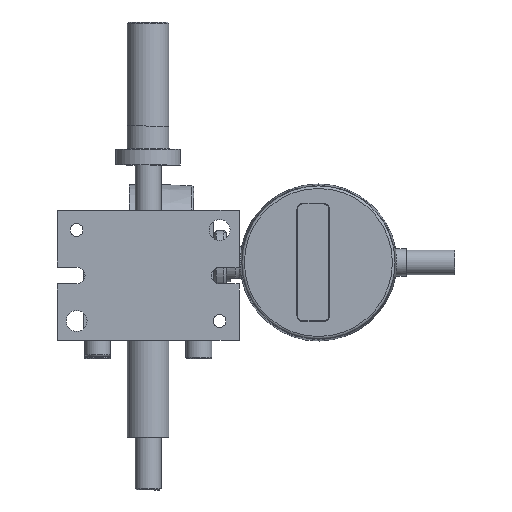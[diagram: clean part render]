
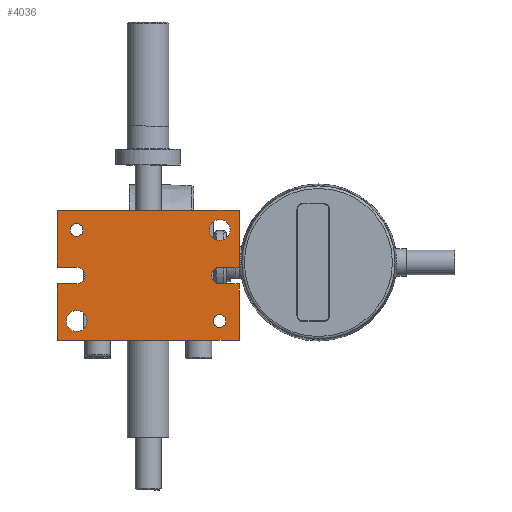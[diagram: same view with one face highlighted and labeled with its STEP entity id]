
A CAD part, left-side view. The second image highlights one B-rep face of the part: STEP entity #4036.
In plain terms, the highlighted planar face has unit normal (-1, 0, 0) as drawn and (0, 0, -1) by its records, which use the part's own axes.
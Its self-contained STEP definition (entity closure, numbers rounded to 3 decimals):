
#284=FACE_BOUND('',#701,.T.);
#285=FACE_BOUND('',#702,.T.);
#286=FACE_BOUND('',#703,.T.);
#287=FACE_BOUND('',#704,.T.);
#362=PLANE('',#4639);
#474=FACE_OUTER_BOUND('',#700,.T.);
#700=EDGE_LOOP('',(#2818,#2819,#2820,#2821,#2822,#2823,#2824,#2825,#2826,
#2827,#2828,#2829));
#701=EDGE_LOOP('',(#2830));
#702=EDGE_LOOP('',(#2831));
#703=EDGE_LOOP('',(#2832,#2833));
#704=EDGE_LOOP('',(#2834,#2835));
#990=LINE('',#6556,#1244);
#993=LINE('',#6562,#1247);
#996=LINE('',#6569,#1250);
#1001=LINE('',#6583,#1255);
#1006=LINE('',#6592,#1260);
#1009=LINE('',#6598,#1263);
#1010=LINE('',#6601,#1264);
#1013=LINE('',#6606,#1267);
#1014=LINE('',#6608,#1268);
#1015=LINE('',#6609,#1269);
#1244=VECTOR('',#5194,10.);
#1247=VECTOR('',#5199,10.);
#1250=VECTOR('',#5204,10.);
#1255=VECTOR('',#5217,10.);
#1260=VECTOR('',#5224,10.);
#1263=VECTOR('',#5229,10.);
#1264=VECTOR('',#5232,10.);
#1267=VECTOR('',#5237,10.);
#1268=VECTOR('',#5238,10.);
#1269=VECTOR('',#5239,10.);
#1496=CIRCLE('',#4627,3.25);
#1498=CIRCLE('',#4633,3.25);
#1500=CIRCLE('',#4640,4.);
#1501=CIRCLE('',#4641,4.);
#1502=CIRCLE('',#4642,2.459);
#1503=CIRCLE('',#4643,2.459);
#1504=CIRCLE('',#4644,2.459);
#1505=CIRCLE('',#4645,2.459);
#1779=VERTEX_POINT('',#6546);
#1780=VERTEX_POINT('',#6547);
#1783=VERTEX_POINT('',#6555);
#1785=VERTEX_POINT('',#6561);
#1787=VERTEX_POINT('',#6567);
#1788=VERTEX_POINT('',#6568);
#1791=VERTEX_POINT('',#6576);
#1793=VERTEX_POINT('',#6582);
#1796=VERTEX_POINT('',#6590);
#1798=VERTEX_POINT('',#6596);
#1799=VERTEX_POINT('',#6600);
#1801=VERTEX_POINT('',#6607);
#1802=VERTEX_POINT('',#6610);
#1803=VERTEX_POINT('',#6612);
#1804=VERTEX_POINT('',#6614);
#1805=VERTEX_POINT('',#6615);
#1806=VERTEX_POINT('',#6618);
#1807=VERTEX_POINT('',#6619);
#2196=EDGE_CURVE('',#1779,#1780,#1496,.T.);
#2200=EDGE_CURVE('',#1780,#1783,#990,.T.);
#2203=EDGE_CURVE('',#1785,#1779,#993,.T.);
#2206=EDGE_CURVE('',#1787,#1788,#996,.T.);
#2210=EDGE_CURVE('',#1788,#1791,#1498,.T.);
#2213=EDGE_CURVE('',#1791,#1793,#1001,.T.);
#2218=EDGE_CURVE('',#1796,#1783,#1006,.T.);
#2221=EDGE_CURVE('',#1798,#1793,#1009,.T.);
#2222=EDGE_CURVE('',#1787,#1799,#1010,.T.);
#2225=EDGE_CURVE('',#1799,#1796,#1013,.T.);
#2226=EDGE_CURVE('',#1801,#1798,#1014,.T.);
#2227=EDGE_CURVE('',#1785,#1801,#1015,.T.);
#2228=EDGE_CURVE('',#1802,#1802,#1500,.T.);
#2229=EDGE_CURVE('',#1803,#1803,#1501,.T.);
#2230=EDGE_CURVE('',#1804,#1805,#1502,.T.);
#2231=EDGE_CURVE('',#1805,#1804,#1503,.T.);
#2232=EDGE_CURVE('',#1806,#1807,#1504,.T.);
#2233=EDGE_CURVE('',#1807,#1806,#1505,.T.);
#2818=ORIENTED_EDGE('',*,*,#2203,.T.);
#2819=ORIENTED_EDGE('',*,*,#2196,.T.);
#2820=ORIENTED_EDGE('',*,*,#2200,.T.);
#2821=ORIENTED_EDGE('',*,*,#2218,.F.);
#2822=ORIENTED_EDGE('',*,*,#2225,.F.);
#2823=ORIENTED_EDGE('',*,*,#2222,.F.);
#2824=ORIENTED_EDGE('',*,*,#2206,.T.);
#2825=ORIENTED_EDGE('',*,*,#2210,.T.);
#2826=ORIENTED_EDGE('',*,*,#2213,.T.);
#2827=ORIENTED_EDGE('',*,*,#2221,.F.);
#2828=ORIENTED_EDGE('',*,*,#2226,.F.);
#2829=ORIENTED_EDGE('',*,*,#2227,.F.);
#2830=ORIENTED_EDGE('',*,*,#2228,.T.);
#2831=ORIENTED_EDGE('',*,*,#2229,.T.);
#2832=ORIENTED_EDGE('',*,*,#2230,.T.);
#2833=ORIENTED_EDGE('',*,*,#2231,.T.);
#2834=ORIENTED_EDGE('',*,*,#2232,.T.);
#2835=ORIENTED_EDGE('',*,*,#2233,.T.);
#4036=ADVANCED_FACE('',(#474,#284,#285,#286,#287),#362,.F.);
#4627=AXIS2_PLACEMENT_3D('',#6548,#5186,#5187);
#4633=AXIS2_PLACEMENT_3D('',#6577,#5210,#5211);
#4639=AXIS2_PLACEMENT_3D('',#6605,#5235,#5236);
#4640=AXIS2_PLACEMENT_3D('',#6611,#5240,#5241);
#4641=AXIS2_PLACEMENT_3D('',#6613,#5242,#5243);
#4642=AXIS2_PLACEMENT_3D('',#6616,#5244,#5245);
#4643=AXIS2_PLACEMENT_3D('',#6617,#5246,#5247);
#4644=AXIS2_PLACEMENT_3D('',#6620,#5248,#5249);
#4645=AXIS2_PLACEMENT_3D('',#6621,#5250,#5251);
#5186=DIRECTION('center_axis',(0.,0.,1.));
#5187=DIRECTION('ref_axis',(1.,0.,0.));
#5194=DIRECTION('',(0.,-1.,0.));
#5199=DIRECTION('',(0.,1.,0.));
#5204=DIRECTION('',(0.,-1.,0.));
#5210=DIRECTION('center_axis',(0.,0.,1.));
#5211=DIRECTION('ref_axis',(-1.,0.,0.));
#5217=DIRECTION('',(0.,1.,0.));
#5224=DIRECTION('',(1.,0.,0.));
#5229=DIRECTION('',(-1.,0.,0.));
#5232=DIRECTION('',(-1.,0.,0.));
#5235=DIRECTION('center_axis',(0.,0.,1.));
#5236=DIRECTION('ref_axis',(1.,0.,0.));
#5237=DIRECTION('',(0.,-1.,0.));
#5238=DIRECTION('',(0.,1.,0.));
#5239=DIRECTION('',(1.,0.,0.));
#5240=DIRECTION('center_axis',(0.,0.,1.));
#5241=DIRECTION('ref_axis',(1.,0.,0.));
#5242=DIRECTION('center_axis',(0.,0.,1.));
#5243=DIRECTION('ref_axis',(1.,0.,0.));
#5244=DIRECTION('center_axis',(0.,0.,1.));
#5245=DIRECTION('ref_axis',(-1.,0.,0.));
#5246=DIRECTION('center_axis',(0.,0.,1.));
#5247=DIRECTION('ref_axis',(-1.,0.,0.));
#5248=DIRECTION('center_axis',(0.,0.,1.));
#5249=DIRECTION('ref_axis',(-1.,0.,0.));
#5250=DIRECTION('center_axis',(0.,0.,1.));
#5251=DIRECTION('ref_axis',(-1.,0.,0.));
#6546=CARTESIAN_POINT('',(3.25,-27.5,-4.5));
#6547=CARTESIAN_POINT('',(-3.25,-27.5,-4.5));
#6548=CARTESIAN_POINT('Origin',(0.,-27.5,-4.5));
#6555=CARTESIAN_POINT('',(-3.25,-35.,-4.5));
#6556=CARTESIAN_POINT('',(-3.25,-13.75,-4.5));
#6561=CARTESIAN_POINT('',(3.25,-35.,-4.5));
#6562=CARTESIAN_POINT('',(3.25,-17.5,-4.5));
#6567=CARTESIAN_POINT('',(-3.25,35.,-4.5));
#6568=CARTESIAN_POINT('',(-3.25,27.5,-4.5));
#6569=CARTESIAN_POINT('',(-3.25,17.5,-4.5));
#6576=CARTESIAN_POINT('',(3.25,27.5,-4.5));
#6577=CARTESIAN_POINT('Origin',(0.,27.5,-4.5));
#6582=CARTESIAN_POINT('',(3.25,35.,-4.5));
#6583=CARTESIAN_POINT('',(3.25,13.75,-4.5));
#6590=CARTESIAN_POINT('',(-25.,-35.,-4.5));
#6592=CARTESIAN_POINT('',(-25.,-35.,-4.5));
#6596=CARTESIAN_POINT('',(25.,35.,-4.5));
#6598=CARTESIAN_POINT('',(25.,35.,-4.5));
#6600=CARTESIAN_POINT('',(-25.,35.,-4.5));
#6601=CARTESIAN_POINT('',(25.,35.,-4.5));
#6605=CARTESIAN_POINT('Origin',(0.,0.,-4.5));
#6606=CARTESIAN_POINT('',(-25.,35.,-4.5));
#6607=CARTESIAN_POINT('',(25.,-35.,-4.5));
#6608=CARTESIAN_POINT('',(25.,-35.,-4.5));
#6609=CARTESIAN_POINT('',(-25.,-35.,-4.5));
#6610=CARTESIAN_POINT('',(13.5,27.5,-4.5));
#6611=CARTESIAN_POINT('Origin',(17.5,27.5,-4.5));
#6612=CARTESIAN_POINT('',(-21.5,-27.5,-4.5));
#6613=CARTESIAN_POINT('Origin',(-17.5,-27.5,-4.5));
#6614=CARTESIAN_POINT('',(-19.959,27.5,-4.5));
#6615=CARTESIAN_POINT('',(-15.042,27.5,-4.5));
#6616=CARTESIAN_POINT('Origin',(-17.5,27.5,-4.5));
#6617=CARTESIAN_POINT('Origin',(-17.5,27.5,-4.5));
#6618=CARTESIAN_POINT('',(15.042,-27.5,-4.5));
#6619=CARTESIAN_POINT('',(19.959,-27.5,-4.5));
#6620=CARTESIAN_POINT('Origin',(17.5,-27.5,-4.5));
#6621=CARTESIAN_POINT('Origin',(17.5,-27.5,-4.5));
